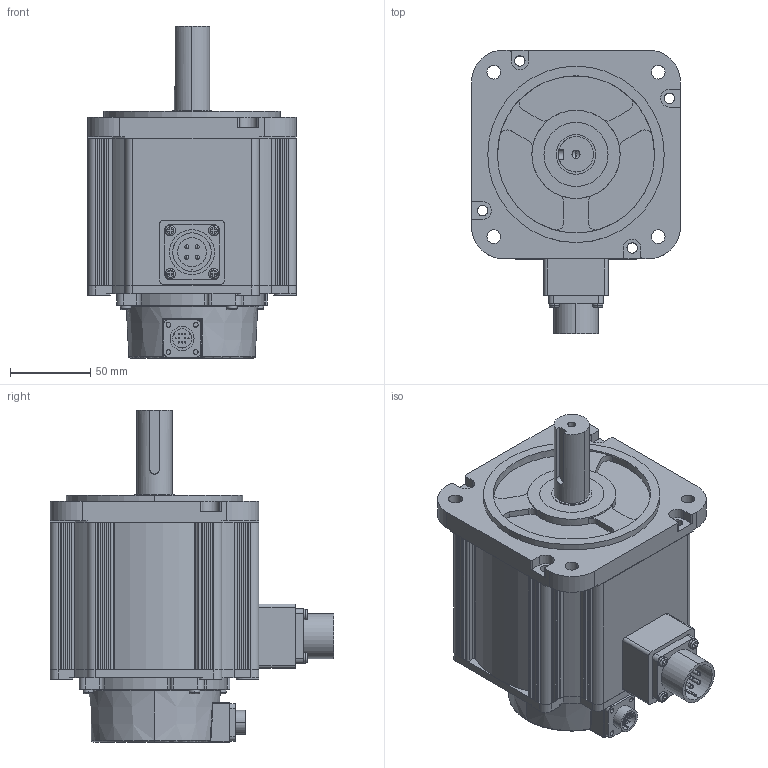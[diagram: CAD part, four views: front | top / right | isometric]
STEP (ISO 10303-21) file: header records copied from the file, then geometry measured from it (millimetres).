
FILE_DESCRIPTION (( 'STEP AP203' ), '1' );
FILE_NAME ('130E-08415.STEP', '2024-12-30T11:54:24', ( '' ), ( '' ), 'SwSTEP 2.0', 'SolidWorks 2020', '' );
FILE_SCHEMA (( 'CONFIG_CONTROL_DESIGN' ));
Length unit declared in the file: millimetre
Products named in the file (10): 橈勤硉晤鎢ん誘欶  S13E.10-01; 130E-08415; 蚐猾; 堤粣; 130Aǰ; 130A綴裔潠謹; SC-CMV1-R10P-E; 130A諉盄釱-1; 18-10; 儂褲-8.4
Assembly tree (9 placements, depth 2):
  130E-08415
    130A綴裔潠謹
    130A諉盄釱-1
    130Aǰ
    堤粣
    蚐猾
    儂褲-8.4
    18-10
    SC-CMV1-R10P-E
    橈勤硉晤鎢ん誘欶  S13E.10-01
Bounding box: 130.2 x 176.9 x 207 mm (x, y, z)
Volume: 653075 mm3; surface area: 277200.7 mm2
Topology: 9 solids, 13 shells, 925 faces, 2474 edges, 1616 vertices
Faces by surface type: plane 520, cylinder 330, torus 45, sphere 12, cone 10, bspline 8
Entity records: 30852 total; most frequent: CARTESIAN_POINT 6072, DIRECTION 5044, ORIENTED_EDGE 4892, EDGE_CURVE 2446, AXIS2_PLACEMENT_3D 1710, LINE 1624, VECTOR 1624, VERTEX_POINT 1604
